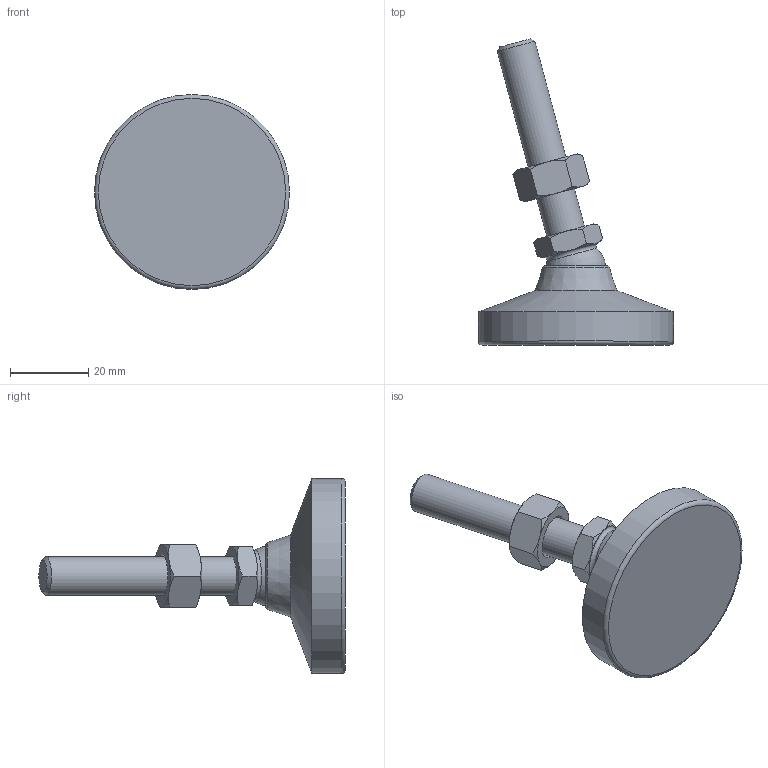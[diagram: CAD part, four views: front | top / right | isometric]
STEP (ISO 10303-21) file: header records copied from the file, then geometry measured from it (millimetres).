
FILE_DESCRIPTION( ( 'STEP AP214' ), ' ' );
FILE_NAME( 'O:/ganter_2015/teil_2/2_5/gn343_2/gn343_2_ks/Levelling foot with threaded stud GN 343.2-50-M10-50-KS-(15).stp', '2015-10-26T09:10:36', ( '' ), ( '' ), ' ', 'PARTsolutions', ' ' );
FILE_SCHEMA( ( 'AUTOMOTIVE_DESIGN { 1 0 10303 214 1 1 1 1 }' ) );
Length unit declared in the file: millimetre
Products named in the file (4): Levelling foot with threaded stud GN 343.2-50-M10-50-KS-(15); _Levelling foot with threaded stud GN 343.2-50-M10-50-KS-(15)_foot; _Gelenkfuss mit Schraube GN 343.2-50-M10-50-KS-(15)_screw; _GLevelling foot with threaded stud GN 343.2-50-M10-50-KS-(15)_nut
Assembly tree (3 placements, depth 2):
  Levelling foot with threaded stud GN 343.2-50-M10-50-KS-(15)
    _Levelling foot with threaded stud GN 343.2-50-M10-50-KS-(15)_foot
    _Gelenkfuss mit Schraube GN 343.2-50-M10-50-KS-(15)_screw
    _GLevelling foot with threaded stud GN 343.2-50-M10-50-KS-(15)_nut
Bounding box: 50 x 78.51 x 50 mm (x, y, z)
Volume: 31083.2 mm3; surface area: 9446.2 mm2
Topology: 3 solids, 3 shells, 56 faces, 117 edges, 68 vertices
Faces by surface type: cone 29, plane 19, torus 3, cylinder 3, sphere 2
Full cylindrical faces by diameter (mm): 8.376 x1, 10 x1, 50 x1
Entity records: 2066 total; most frequent: CARTESIAN_POINT 498, DIRECTION 212, ORIENTED_EDGE 200, AXIS2_PLACEMENT_3D 100, EDGE_CURVE 100, EDGE_LOOP 72, VERTEX_POINT 66, FACE_OUTER_BOUND 62
